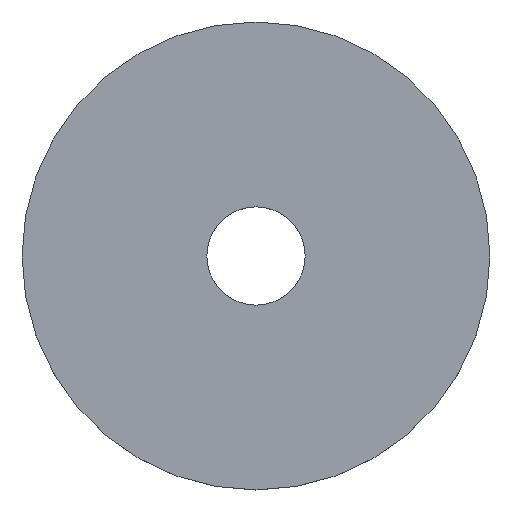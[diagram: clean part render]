
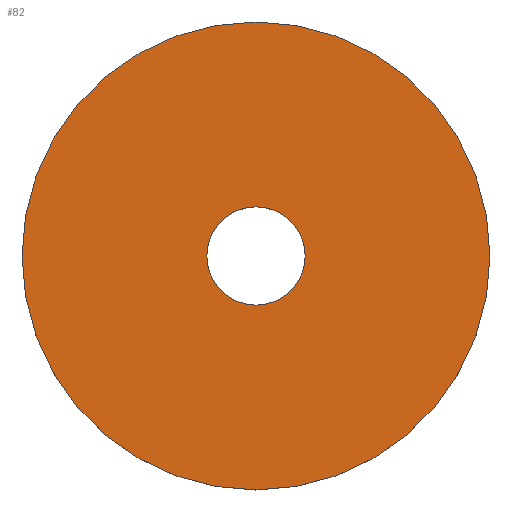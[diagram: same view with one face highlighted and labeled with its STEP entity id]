
A CAD part, top view. The second image highlights one B-rep face of the part: STEP entity #82.
In plain terms, the highlighted planar face has unit normal (0, 0, 1).
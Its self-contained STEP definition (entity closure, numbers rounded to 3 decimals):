
#1 = VERTEX_POINT ( 'NONE', #114 ) ;
#11 = CIRCLE ( 'NONE', #67, 2.1 ) ;
#19 = ORIENTED_EDGE ( 'NONE', *, *, #181, .T. ) ;
#31 = CIRCLE ( 'NONE', #186, 10. ) ;
#33 = FACE_BOUND ( 'NONE', #109, .T. ) ;
#35 = CARTESIAN_POINT ( 'NONE',  ( 0., 0., 0.625 ) ) ;
#44 = EDGE_LOOP ( 'NONE', ( #19, #71 ) ) ;
#49 = CIRCLE ( 'NONE', #126, 10. ) ;
#56 = CARTESIAN_POINT ( 'NONE',  ( -2.1, 0., 0.625 ) ) ;
#58 = EDGE_CURVE ( 'NONE', #1, #92, #203, .T. ) ;
#60 = PLANE ( 'NONE',  #168 ) ;
#64 = DIRECTION ( 'NONE',  ( 0., 0., 1. ) ) ;
#67 = AXIS2_PLACEMENT_3D ( 'NONE', #197, #217, #81 ) ;
#71 = ORIENTED_EDGE ( 'NONE', *, *, #211, .T. ) ;
#78 = DIRECTION ( 'NONE',  ( 1., 0., 0. ) ) ;
#81 = DIRECTION ( 'NONE',  ( 1., 0., 0. ) ) ;
#82 = ADVANCED_FACE ( 'NONE', ( #151, #33 ), #60, .T. ) ;
#84 = DIRECTION ( 'NONE',  ( 0., 0., 1. ) ) ;
#92 = VERTEX_POINT ( 'NONE', #56 ) ;
#93 = CARTESIAN_POINT ( 'NONE',  ( 10., 0., 0.625 ) ) ;
#105 = VERTEX_POINT ( 'NONE', #93 ) ;
#109 = EDGE_LOOP ( 'NONE', ( #138, #142 ) ) ;
#114 = CARTESIAN_POINT ( 'NONE',  ( 2.1, 0., 0.625 ) ) ;
#115 = DIRECTION ( 'NONE',  ( 1., 0., 0. ) ) ;
#126 = AXIS2_PLACEMENT_3D ( 'NONE', #221, #64, #130 ) ;
#130 = DIRECTION ( 'NONE',  ( 1., 0., 0. ) ) ;
#132 = CARTESIAN_POINT ( 'NONE',  ( 0., 0., 0.625 ) ) ;
#138 = ORIENTED_EDGE ( 'NONE', *, *, #225, .F. ) ;
#142 = ORIENTED_EDGE ( 'NONE', *, *, #58, .F. ) ;
#151 = FACE_OUTER_BOUND ( 'NONE', #44, .T. ) ;
#156 = VERTEX_POINT ( 'NONE', #187 ) ;
#168 = AXIS2_PLACEMENT_3D ( 'NONE', #191, #212, #214 ) ;
#181 = EDGE_CURVE ( 'NONE', #156, #105, #31, .T. ) ;
#186 = AXIS2_PLACEMENT_3D ( 'NONE', #132, #84, #78 ) ;
#187 = CARTESIAN_POINT ( 'NONE',  ( -10., 0., 0.625 ) ) ;
#191 = CARTESIAN_POINT ( 'NONE',  ( 0., 0., 0.625 ) ) ;
#197 = CARTESIAN_POINT ( 'NONE',  ( 0., 0., 0.625 ) ) ;
#202 = AXIS2_PLACEMENT_3D ( 'NONE', #35, #234, #115 ) ;
#203 = CIRCLE ( 'NONE', #202, 2.1 ) ;
#211 = EDGE_CURVE ( 'NONE', #105, #156, #49, .T. ) ;
#212 = DIRECTION ( 'NONE',  ( 0., 0., 1. ) ) ;
#214 = DIRECTION ( 'NONE',  ( 1., 0., 0. ) ) ;
#217 = DIRECTION ( 'NONE',  ( 0., 0., 1. ) ) ;
#221 = CARTESIAN_POINT ( 'NONE',  ( 0., 0., 0.625 ) ) ;
#225 = EDGE_CURVE ( 'NONE', #92, #1, #11, .T. ) ;
#234 = DIRECTION ( 'NONE',  ( 0., 0., 1. ) ) ;
